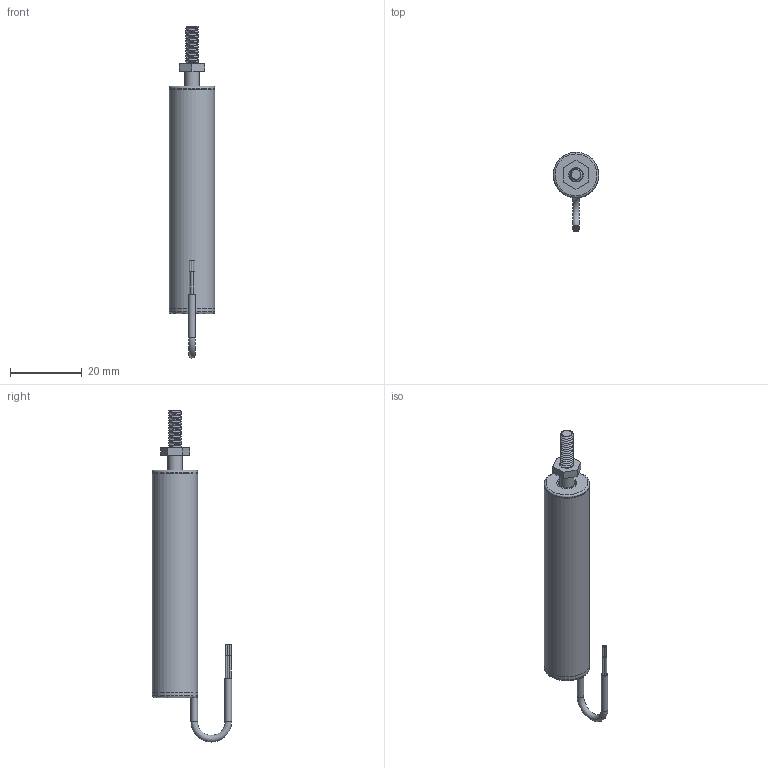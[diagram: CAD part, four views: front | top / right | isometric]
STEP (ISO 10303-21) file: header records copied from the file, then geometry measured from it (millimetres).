
FILE_DESCRIPTION(/* description */ (''),/* implementation_level */ '2;1');
FILE_NAME(/* name */ 'ILPS-13Z-050-A-00-YY-S Assembly (wrapped).iam.stp',/* time_stamp */ '2023-05-05T16:04:09-04:00',/* author */ ('TSC_Grant'),/* organization */ (''),/* preprocessor_version */ 'ST-DEVELOPER v19.2',/* originating_system */ 'Autodesk Inventor 2024',/* authorisation */ '');
FILE_SCHEMA (('AUTOMOTIVE_DESIGN { 1 0 10303 214 3 1 1 }'));
Length unit declared in the file: inch
Products named in the file (5): 3020-0017-XX Assembly_SW; 3020-0017-XX Sensor Tube_SW; 3020-0017-XX Shaft_SW; 3020-0017-XX Wire_SW; BS 4183 - M4
Assembly tree (4 placements, depth 2):
  3020-0017-XX Assembly_SW
    3020-0017-XX Sensor Tube_SW
    3020-0017-XX Shaft_SW
    3020-0017-XX Wire_SW
    BS 4183 - M4
Bounding box: 12.7 x 22.14 x 92.78 mm (x, y, z)
Volume: 2003.3 mm3; surface area: 8945.8 mm2
Topology: 7 solids, 7 shells, 64 faces, 122 edges, 80 vertices
Faces by surface type: plane 32, cylinder 22, cone 4, torus 3, bspline 3
Full cylindrical faces by diameter (mm): 0.508 x4, 0.635 x4, 1.857 x2, 3.242 x1, 3.988 x1, 4.826 x1, 5.588 x3, 12.446 x1, 12.7 x3
Entity records: 3534 total; most frequent: CARTESIAN_POINT 1890, DIRECTION 304, ORIENTED_EDGE 244, AXIS2_PLACEMENT_3D 127, EDGE_CURVE 122, EDGE_LOOP 82, VERTEX_POINT 80, FACE_OUTER_BOUND 64
